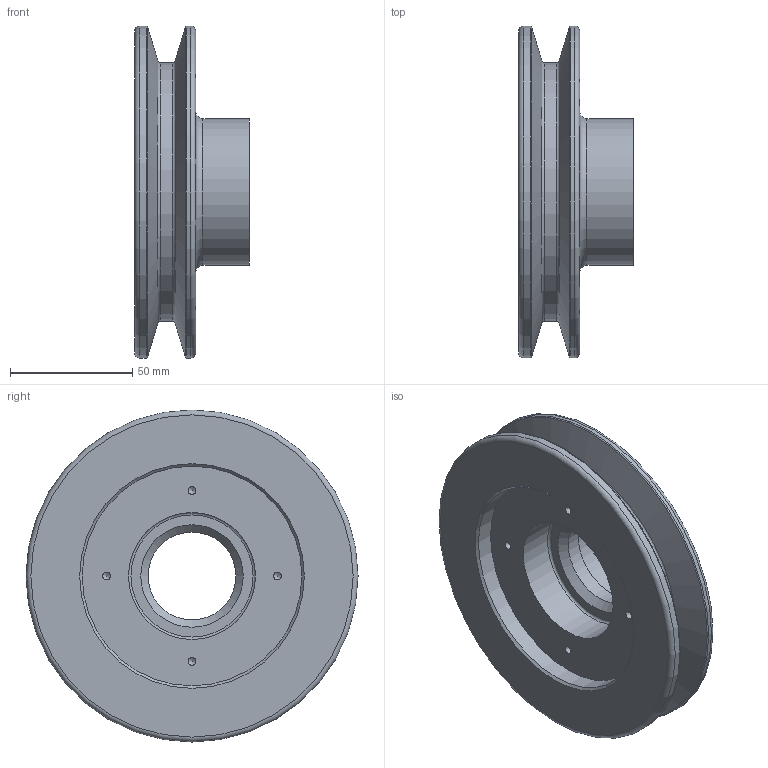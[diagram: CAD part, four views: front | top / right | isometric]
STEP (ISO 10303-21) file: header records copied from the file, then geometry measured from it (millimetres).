
FILE_DESCRIPTION(/* description */ (''),/* implementation_level */ '2;1');
FILE_NAME(/* name */ 'C:\Users\now\Desktop\390109E1005\390109E1005-V벨트풀리.stp',/* time_stamp */ '2019-01-12T11:37:26+09:00',/* author */ ('now'),/* organization */ (''),/* preprocessor_version */ 'ST-DEVELOPER v15.6',/* originating_system */ 'Autodesk Inventor 2015',/* authorisation */ '');
FILE_SCHEMA (('AUTOMOTIVE_DESIGN { 1 0 10303 214 3 1 1 }'));
Length unit declared in the file: millimetre
Products named in the file (1): V벨트풀리
Bounding box: 47 x 136 x 136 mm (x, y, z)
Volume: 247813.5 mm3; surface area: 55604.2 mm2
Topology: 1 solids, 1 shells, 36 faces, 73 edges, 43 vertices
Faces by surface type: cylinder 12, cone 9, torus 9, plane 6
Full cylindrical faces by diameter (mm): 3.242 x4, 36 x1, 40 x1, 52 x1, 60 x1, 90 x1, 106 x1, 136 x2
Entity records: 752 total; most frequent: DIRECTION 146, CARTESIAN_POINT 109, AXIS2_PLACEMENT_3D 73, EDGE_LOOP 72, ORIENTED_EDGE 72, FACE_BOUND 36, FACE_OUTER_BOUND 36, CIRCLE 36
